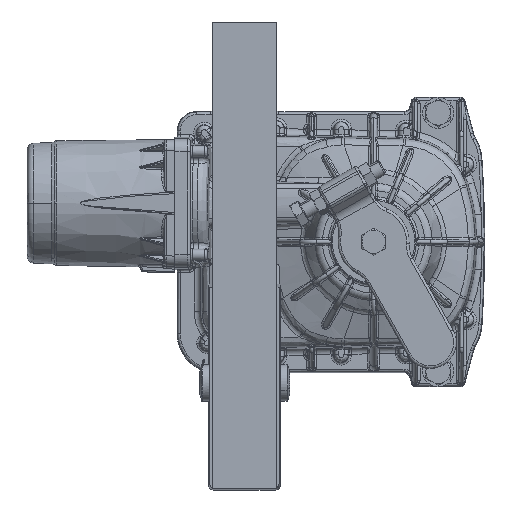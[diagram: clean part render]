
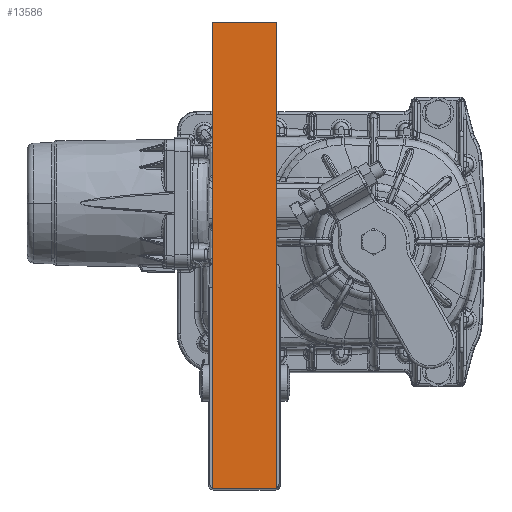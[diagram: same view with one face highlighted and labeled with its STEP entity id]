
A CAD part, top view. The second image highlights one B-rep face of the part: STEP entity #13586.
In plain terms, the highlighted planar face has unit normal (0, 0, 1).
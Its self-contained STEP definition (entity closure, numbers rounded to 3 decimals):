
#969 = VERTEX_POINT ( 'NONE', #113136 ) ;
#3656 = ORIENTED_EDGE ( 'NONE', *, *, #78416, .F. ) ;
#5243 = DIRECTION ( 'NONE',  ( -1., 0., 0. ) ) ;
#5434 = DIRECTION ( 'NONE',  ( 0., 0., 1. ) ) ;
#5464 = CARTESIAN_POINT ( 'NONE',  ( -81.95, -261.622, 136.15 ) ) ;
#7185 = PLANE ( 'NONE',  #33196 ) ;
#13586 = ADVANCED_FACE ( 'NONE', ( #148434 ), #7185, .T. ) ;
#17267 = CARTESIAN_POINT ( 'NONE',  ( -56.95, -442.122, 136.15 ) ) ;
#24693 = ORIENTED_EDGE ( 'NONE', *, *, #77770, .F. ) ;
#33109 = ORIENTED_EDGE ( 'NONE', *, *, #98054, .F. ) ;
#33196 = AXIS2_PLACEMENT_3D ( 'NONE', #5464, #5434, #5243 ) ;
#34195 = EDGE_LOOP ( 'NONE', ( #3656, #24693, #113229, #33109 ) ) ;
#38642 = DIRECTION ( 'NONE',  ( 1., 0., 0. ) ) ;
#45491 = VERTEX_POINT ( 'NONE', #96007 ) ;
#47479 = VECTOR ( 'NONE', #69412, 1000. ) ;
#55954 = VERTEX_POINT ( 'NONE', #99435 ) ;
#56772 = VECTOR ( 'NONE', #87308, 1000. ) ;
#69412 = DIRECTION ( 'NONE',  ( 0., 1., 0. ) ) ;
#75449 = CARTESIAN_POINT ( 'NONE',  ( -56.95, -81.122, 136.15 ) ) ;
#77770 = EDGE_CURVE ( 'NONE', #55954, #109097, #97361, .T. ) ;
#78416 = EDGE_CURVE ( 'NONE', #109097, #45491, #137872, .T. ) ;
#78631 = EDGE_CURVE ( 'NONE', #969, #55954, #150613, .T. ) ;
#83777 = LINE ( 'NONE', #121064, #115175 ) ;
#87308 = DIRECTION ( 'NONE',  ( 0., -1., 0. ) ) ;
#96007 = CARTESIAN_POINT ( 'NONE',  ( -106.95, -81.122, 136.15 ) ) ;
#97361 = LINE ( 'NONE', #17267, #124947 ) ;
#98054 = EDGE_CURVE ( 'NONE', #45491, #969, #83777, .T. ) ;
#99435 = CARTESIAN_POINT ( 'NONE',  ( -56.95, -442.122, 136.15 ) ) ;
#109097 = VERTEX_POINT ( 'NONE', #138598 ) ;
#113136 = CARTESIAN_POINT ( 'NONE',  ( -56.95, -81.122, 136.15 ) ) ;
#113229 = ORIENTED_EDGE ( 'NONE', *, *, #78631, .F. ) ;
#115175 = VECTOR ( 'NONE', #38642, 1000. ) ;
#121064 = CARTESIAN_POINT ( 'NONE',  ( -106.95, -81.122, 136.15 ) ) ;
#123160 = DIRECTION ( 'NONE',  ( -1., 0., 0. ) ) ;
#124947 = VECTOR ( 'NONE', #123160, 1000. ) ;
#137872 = LINE ( 'NONE', #139948, #47479 ) ;
#138598 = CARTESIAN_POINT ( 'NONE',  ( -106.95, -442.122, 136.15 ) ) ;
#139948 = CARTESIAN_POINT ( 'NONE',  ( -106.95, -442.122, 136.15 ) ) ;
#148434 = FACE_OUTER_BOUND ( 'NONE', #34195, .T. ) ;
#150613 = LINE ( 'NONE', #75449, #56772 ) ;
